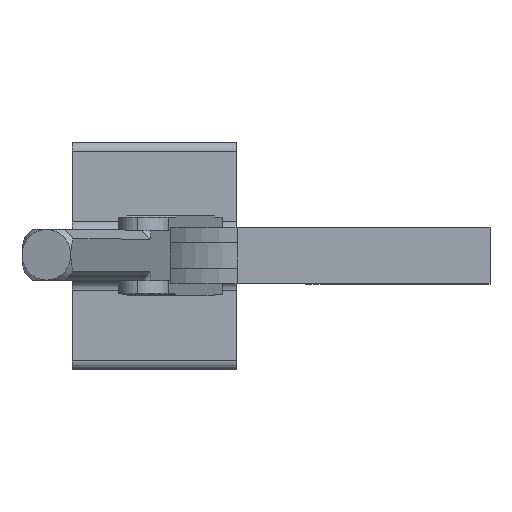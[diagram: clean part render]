
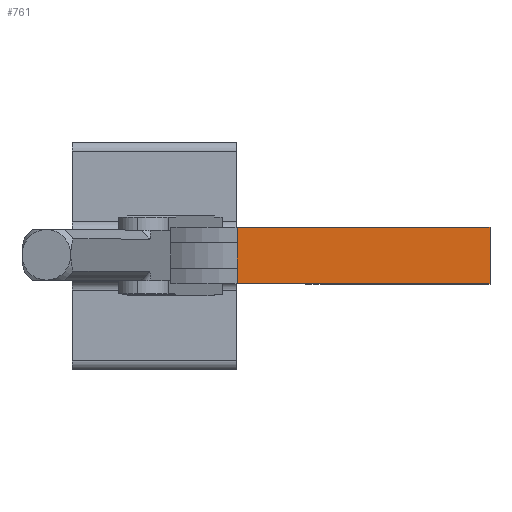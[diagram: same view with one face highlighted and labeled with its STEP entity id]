
A CAD part, top view. The second image highlights one B-rep face of the part: STEP entity #761.
In plain terms, the highlighted planar face has unit normal (0, 0, 1).
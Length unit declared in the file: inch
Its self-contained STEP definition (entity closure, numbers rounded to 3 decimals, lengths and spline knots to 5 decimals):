
#761 = ADVANCED_FACE( '', ( #1072 ), #1073, .T. );
#1072 = FACE_OUTER_BOUND( '', #1460, .T. );
#1073 = PLANE( '', #1461 );
#1460 = EDGE_LOOP( '', ( #2545, #2546, #2547, #2548, #2549, #2550 ) );
#1461 = AXIS2_PLACEMENT_3D( '', #2551, #2552, #2553 );
#2545 = ORIENTED_EDGE( '', *, *, #3437, .F. );
#2546 = ORIENTED_EDGE( '', *, *, #3371, .F. );
#2547 = ORIENTED_EDGE( '', *, *, #3436, .F. );
#2548 = ORIENTED_EDGE( '', *, *, #3433, .F. );
#2549 = ORIENTED_EDGE( '', *, *, #3431, .T. );
#2550 = ORIENTED_EDGE( '', *, *, #3438, .T. );
#2551 = CARTESIAN_POINT( '', ( 4.13085, 0.125, 3.04402 ) );
#2552 = DIRECTION( '', ( 0., 0., 1. ) );
#2553 = DIRECTION( '', ( 1., 0., 0. ) );
#3371 = EDGE_CURVE( '', #4030, #4033, #4034, .T. );
#3431 = EDGE_CURVE( '', #4134, #4132, #4135, .T. );
#3433 = EDGE_CURVE( '', #4134, #4137, #4138, .T. );
#3436 = EDGE_CURVE( '', #4137, #4030, #4141, .T. );
#3437 = EDGE_CURVE( '', #4033, #4142, #4143, .T. );
#3438 = EDGE_CURVE( '', #4132, #4142, #4144, .T. );
#4030 = VERTEX_POINT( '', #5058 );
#4033 = VERTEX_POINT( '', #5061 );
#4034 = LINE( '', #5062, #5063 );
#4132 = VERTEX_POINT( '', #5233 );
#4134 = VERTEX_POINT( '', #5236 );
#4135 = LINE( '', #5237, #5238 );
#4137 = VERTEX_POINT( '', #5240 );
#4138 = LINE( '', #5241, #5242 );
#4141 = B_SPLINE_CURVE_WITH_KNOTS( '', 3, ( #5245, #5246, #5247, #5248 ), .UNSPECIFIED., .F., .F., ( 4, 4 ), ( 0., 1. ), .UNSPECIFIED. );
#4142 = VERTEX_POINT( '', #5249 );
#4143 = LINE( '', #5250, #5251 );
#4144 = LINE( '', #5252, #5253 );
#5058 = CARTESIAN_POINT( '', ( 1.63103, 0.125, 3.04402 ) );
#5061 = CARTESIAN_POINT( '', ( 1.63101, 0.28125, 3.04402 ) );
#5062 = CARTESIAN_POINT( '', ( 1.63101, 0.125, 3.04402 ) );
#5063 = VECTOR( '', #6103, 1. );
#5233 = CARTESIAN_POINT( '', ( 4.13085, -0.28125, 3.04402 ) );
#5236 = CARTESIAN_POINT( '', ( 1.63101, -0.28125, 3.04402 ) );
#5237 = CARTESIAN_POINT( '', ( 1.63101, -0.28125, 3.04402 ) );
#5238 = VECTOR( '', #6192, 1. );
#5240 = CARTESIAN_POINT( '', ( 1.63103, -0.125, 3.04402 ) );
#5241 = CARTESIAN_POINT( '', ( 1.63101, -0.28125, 3.04402 ) );
#5242 = VECTOR( '', #6196, 1. );
#5245 = CARTESIAN_POINT( '', ( 1.63102, -0.125, 3.04402 ) );
#5246 = CARTESIAN_POINT( '', ( 1.63102, -0.04167, 3.04402 ) );
#5247 = CARTESIAN_POINT( '', ( 1.63102, 0.04167, 3.04402 ) );
#5248 = CARTESIAN_POINT( '', ( 1.63102, 0.125, 3.04402 ) );
#5249 = CARTESIAN_POINT( '', ( 4.13085, 0.28125, 3.04402 ) );
#5250 = CARTESIAN_POINT( '', ( 1.63101, 0.28125, 3.04402 ) );
#5251 = VECTOR( '', #6203, 1. );
#5252 = CARTESIAN_POINT( '', ( 4.13085, -0.28125, 3.04402 ) );
#5253 = VECTOR( '', #6204, 1. );
#6103 = DIRECTION( '', ( 0., 1., 0. ) );
#6192 = DIRECTION( '', ( 1., 0., 0. ) );
#6196 = DIRECTION( '', ( 0., 1., 0. ) );
#6203 = DIRECTION( '', ( 1., 0., 0. ) );
#6204 = DIRECTION( '', ( 0., 1., 0. ) );
